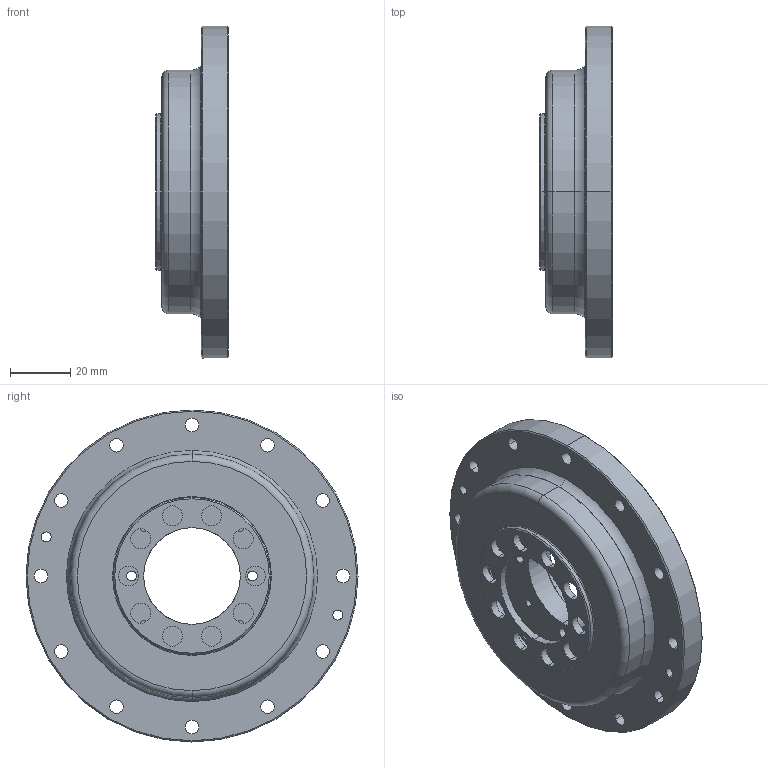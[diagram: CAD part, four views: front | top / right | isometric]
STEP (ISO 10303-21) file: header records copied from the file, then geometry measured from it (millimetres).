
FILE_DESCRIPTION (( 'STEP AP203' ), '1' );
FILE_NAME ('LCD-32-XXX-P-I.STEP', '2017-04-06T06:33:30', ( 'Windows 蚚誧' ), ( 'Users' ), 'SwSTEP 2.0', 'SolidWorks 2013', '' );
FILE_SCHEMA (( 'CONFIG_CONTROL_DESIGN' ));
Length unit declared in the file: millimetre
Products named in the file (9): LCD-32-XXX-P01; ISO 7046-1 - M3 x 6 - Z --- 6C_ISO 7046-1 - M3 x 6 - Z --- 6C; LCD-32-XXX-P02; LCD-32-XXX-P-I; LCD-32-XXX-P03; DB-32-I; RZC内外圈+钢球; RZC悵厥殤; RZC-32
Assembly tree (11 placements, depth 3):
  LCD-32-XXX-P-I
    LCD-32-XXX-P03
    DB-32-I
    RZC-32
      RZC内外圈+钢球
      RZC悵厥殤
    LCD-32-XXX-P01
    ISO 7046-1 - M3 x 6 - Z --- 6C_ISO 7046-1 - M3 x 6 - Z --- 6C  x4
    LCD-32-XXX-P02
Bounding box: 24 x 110 x 110 mm (x, y, z)
Volume: 77276.7 mm3; surface area: 66715.5 mm2
Topology: 10 solids, 10 shells, 582 faces, 1765 edges, 1128 vertices
Faces by surface type: cylinder 225, plane 167, cone 100, sphere 46, torus 44
Entity records: 18052 total; most frequent: CARTESIAN_POINT 4299, DIRECTION 2844, ORIENTED_EDGE 2686, EDGE_CURVE 1343, AXIS2_PLACEMENT_3D 1271, VERTEX_POINT 874, CIRCLE 797, EDGE_LOOP 573
